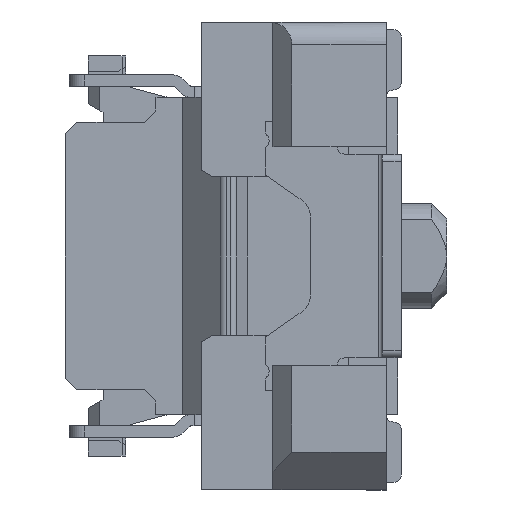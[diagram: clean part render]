
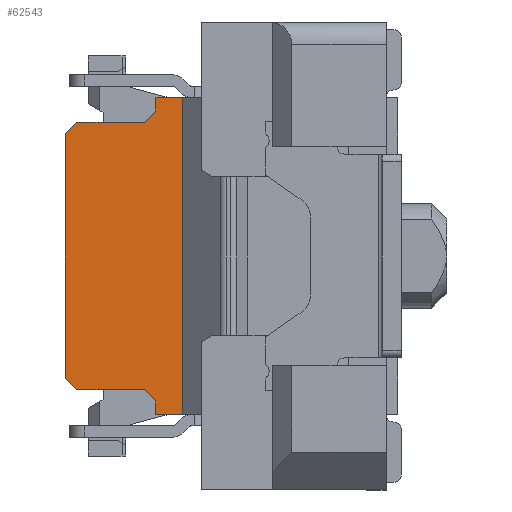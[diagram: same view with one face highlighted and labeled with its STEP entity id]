
A CAD part, left-side view. The second image highlights one B-rep face of the part: STEP entity #62543.
In plain terms, the highlighted planar face has unit normal (-1, 0, 0).
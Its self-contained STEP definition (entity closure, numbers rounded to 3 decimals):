
#3634 = DIRECTION ( 'NONE',  ( 0., -0.707, -0.707 ) ) ;
#4221 = CARTESIAN_POINT ( 'NONE',  ( -11.6, 3.25, -2.1 ) ) ;
#8253 = CARTESIAN_POINT ( 'NONE',  ( -11.6, 2.36, 2.81 ) ) ;
#9465 = DIRECTION ( 'NONE',  ( 0., 0., -1. ) ) ;
#9944 = VERTEX_POINT ( 'NONE', #23919 ) ;
#10792 = DIRECTION ( 'NONE',  ( 0., 0., -1. ) ) ;
#12670 = VECTOR ( 'NONE', #23795, 1000. ) ;
#17940 = LINE ( 'NONE', #135589, #54325 ) ;
#18724 = CARTESIAN_POINT ( 'NONE',  ( -11.6, 3.25, 2.1 ) ) ;
#20348 = ORIENTED_EDGE ( 'NONE', *, *, #170344, .T. ) ;
#22221 = EDGE_CURVE ( 'NONE', #139298, #117730, #196354, .T. ) ;
#23413 = ORIENTED_EDGE ( 'NONE', *, *, #66248, .T. ) ;
#23795 = DIRECTION ( 'NONE',  ( 0., 0.707, -0.707 ) ) ;
#23919 = CARTESIAN_POINT ( 'NONE',  ( -11.6, 3.25, 1.92 ) ) ;
#24962 = CARTESIAN_POINT ( 'NONE',  ( -11.6, 0.2, -2.1 ) ) ;
#26289 = CARTESIAN_POINT ( 'NONE',  ( -11.6, 2.9, -2.454 ) ) ;
#26294 = EDGE_LOOP ( 'NONE', ( #184176, #70242, #68835, #155336, #20348, #23413, #26403, #125665, #51551, #186238, #83798, #192545 ) ) ;
#26403 = ORIENTED_EDGE ( 'NONE', *, *, #70459, .T. ) ;
#26582 = LINE ( 'NONE', #72577, #187489 ) ;
#28148 = LINE ( 'NONE', #96541, #147555 ) ;
#31702 = EDGE_CURVE ( 'NONE', #135775, #55566, #201008, .T. ) ;
#33334 = CARTESIAN_POINT ( 'NONE',  ( -11.6, 5.46, 0.29 ) ) ;
#38795 = CARTESIAN_POINT ( 'NONE',  ( -11.6, 4.45, -1.62 ) ) ;
#40223 = LINE ( 'NONE', #132320, #159658 ) ;
#44029 = VERTEX_POINT ( 'NONE', #141673 ) ;
#51551 = ORIENTED_EDGE ( 'NONE', *, *, #82265, .T. ) ;
#51564 = LINE ( 'NONE', #26289, #170978 ) ;
#53895 = VERTEX_POINT ( 'NONE', #18724 ) ;
#54325 = VECTOR ( 'NONE', #151287, 1000. ) ;
#55566 = VERTEX_POINT ( 'NONE', #113885 ) ;
#58834 = LINE ( 'NONE', #8253, #12670 ) ;
#62543 = ADVANCED_FACE ( 'NONE', ( #81445 ), #195345, .F. ) ;
#65000 = CARTESIAN_POINT ( 'NONE',  ( -11.6, 3.4, -1.77 ) ) ;
#66248 = EDGE_CURVE ( 'NONE', #53895, #9944, #26582, .T. ) ;
#68835 = ORIENTED_EDGE ( 'NONE', *, *, #77023, .T. ) ;
#70242 = ORIENTED_EDGE ( 'NONE', *, *, #182666, .T. ) ;
#70459 = EDGE_CURVE ( 'NONE', #9944, #135775, #58834, .T. ) ;
#72577 = CARTESIAN_POINT ( 'NONE',  ( -11.6, 3.25, 3.1 ) ) ;
#75043 = VECTOR ( 'NONE', #162200, 1000. ) ;
#76270 = LINE ( 'NONE', #198815, #168950 ) ;
#77023 = EDGE_CURVE ( 'NONE', #81960, #44029, #123357, .T. ) ;
#79782 = CARTESIAN_POINT ( 'NONE',  ( -11.6, 2.65, 1.77 ) ) ;
#81445 = FACE_OUTER_BOUND ( 'NONE', #26294, .T. ) ;
#81862 = VECTOR ( 'NONE', #165171, 1000. ) ;
#81960 = VERTEX_POINT ( 'NONE', #4221 ) ;
#82265 = EDGE_CURVE ( 'NONE', #55566, #172414, #76270, .T. ) ;
#82569 = DIRECTION ( 'NONE',  ( 0., -0.707, -0.707 ) ) ;
#83798 = ORIENTED_EDGE ( 'NONE', *, *, #169366, .T. ) ;
#89519 = DIRECTION ( 'NONE',  ( 0., 0.707, -0.707 ) ) ;
#95354 = DIRECTION ( 'NONE',  ( 0., 1., 0. ) ) ;
#96541 = CARTESIAN_POINT ( 'NONE',  ( -11.6, 5.91, -0.16 ) ) ;
#101408 = EDGE_CURVE ( 'NONE', #172414, #188300, #116453, .T. ) ;
#102396 = DIRECTION ( 'NONE',  ( 1., 0., 0. ) ) ;
#107307 = CARTESIAN_POINT ( 'NONE',  ( -11.6, 4.45, 1.62 ) ) ;
#109991 = CARTESIAN_POINT ( 'NONE',  ( -11.6, 2.9, 2.1 ) ) ;
#113621 = AXIS2_PLACEMENT_3D ( 'NONE', #196009, #102396, #9465 ) ;
#113885 = CARTESIAN_POINT ( 'NONE',  ( -11.6, 4.3, 1.77 ) ) ;
#116453 = LINE ( 'NONE', #130819, #75043 ) ;
#117730 = VERTEX_POINT ( 'NONE', #154893 ) ;
#123357 = LINE ( 'NONE', #24962, #81862 ) ;
#125665 = ORIENTED_EDGE ( 'NONE', *, *, #31702, .T. ) ;
#126202 = VERTEX_POINT ( 'NONE', #182662 ) ;
#130819 = CARTESIAN_POINT ( 'NONE',  ( -11.6, 4.45, 3.1 ) ) ;
#132320 = CARTESIAN_POINT ( 'NONE',  ( -11.6, 2.65, -1.77 ) ) ;
#135187 = DIRECTION ( 'NONE',  ( 0., 0., 1. ) ) ;
#135589 = CARTESIAN_POINT ( 'NONE',  ( -11.6, 3.25, 3.1 ) ) ;
#135775 = VERTEX_POINT ( 'NONE', #154616 ) ;
#139298 = VERTEX_POINT ( 'NONE', #65000 ) ;
#140589 = CARTESIAN_POINT ( 'NONE',  ( -11.6, 0.2, 2.1 ) ) ;
#141673 = CARTESIAN_POINT ( 'NONE',  ( -11.6, 2.9, -2.1 ) ) ;
#142122 = EDGE_CURVE ( 'NONE', #126202, #139298, #40223, .T. ) ;
#145931 = EDGE_CURVE ( 'NONE', #44029, #189544, #51564, .T. ) ;
#147555 = VECTOR ( 'NONE', #3634, 1000. ) ;
#151287 = DIRECTION ( 'NONE',  ( 0., 0., -1. ) ) ;
#154616 = CARTESIAN_POINT ( 'NONE',  ( -11.6, 3.4, 1.77 ) ) ;
#154770 = VECTOR ( 'NONE', #82569, 1000. ) ;
#154893 = CARTESIAN_POINT ( 'NONE',  ( -11.6, 3.25, -1.92 ) ) ;
#155336 = ORIENTED_EDGE ( 'NONE', *, *, #145931, .T. ) ;
#156260 = DIRECTION ( 'NONE',  ( 0., 1., 0. ) ) ;
#156355 = VECTOR ( 'NONE', #156260, 1000. ) ;
#159420 = VECTOR ( 'NONE', #95354, 1000. ) ;
#159658 = VECTOR ( 'NONE', #163730, 1000. ) ;
#162200 = DIRECTION ( 'NONE',  ( 0., 0., -1. ) ) ;
#163730 = DIRECTION ( 'NONE',  ( 0., -1., 0. ) ) ;
#165171 = DIRECTION ( 'NONE',  ( 0., -1., 0. ) ) ;
#168950 = VECTOR ( 'NONE', #89519, 1000. ) ;
#169366 = EDGE_CURVE ( 'NONE', #188300, #126202, #28148, .T. ) ;
#170344 = EDGE_CURVE ( 'NONE', #189544, #53895, #175871, .T. ) ;
#170978 = VECTOR ( 'NONE', #135187, 1000. ) ;
#172414 = VERTEX_POINT ( 'NONE', #107307 ) ;
#175871 = LINE ( 'NONE', #140589, #156355 ) ;
#182662 = CARTESIAN_POINT ( 'NONE',  ( -11.6, 4.3, -1.77 ) ) ;
#182666 = EDGE_CURVE ( 'NONE', #117730, #81960, #17940, .T. ) ;
#184176 = ORIENTED_EDGE ( 'NONE', *, *, #22221, .T. ) ;
#186238 = ORIENTED_EDGE ( 'NONE', *, *, #101408, .T. ) ;
#187489 = VECTOR ( 'NONE', #10792, 1000. ) ;
#188300 = VERTEX_POINT ( 'NONE', #38795 ) ;
#189544 = VERTEX_POINT ( 'NONE', #109991 ) ;
#192545 = ORIENTED_EDGE ( 'NONE', *, *, #142122, .T. ) ;
#195345 = PLANE ( 'NONE',  #113621 ) ;
#196009 = CARTESIAN_POINT ( 'NONE',  ( -11.6, 2.65, 3.1 ) ) ;
#196354 = LINE ( 'NONE', #33334, #154770 ) ;
#198815 = CARTESIAN_POINT ( 'NONE',  ( -11.6, 2.81, 3.26 ) ) ;
#201008 = LINE ( 'NONE', #79782, #159420 ) ;
